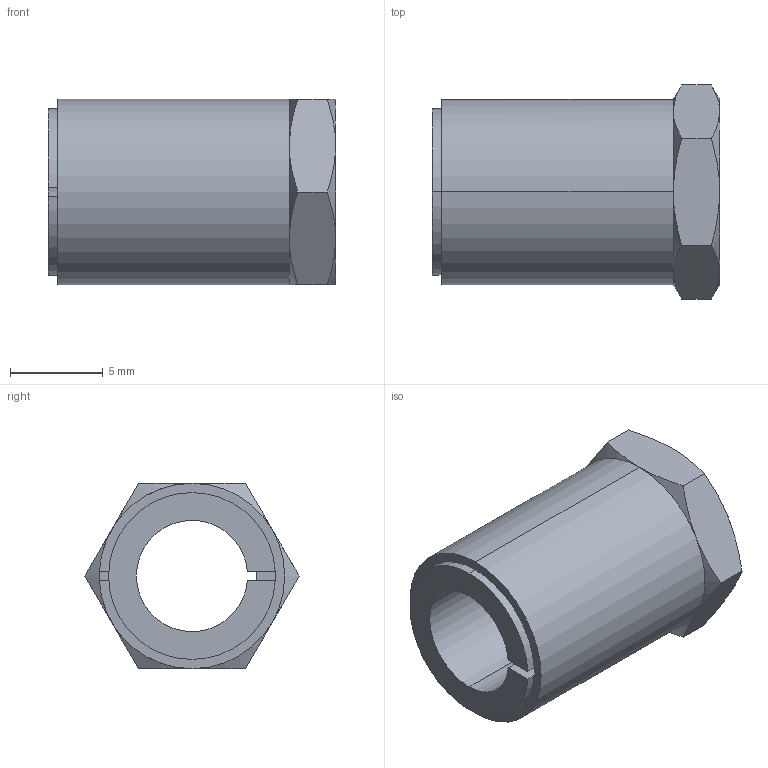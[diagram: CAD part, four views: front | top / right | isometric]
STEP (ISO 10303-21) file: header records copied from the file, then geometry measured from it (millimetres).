
FILE_DESCRIPTION (( 'STEP AP203' ), '1' );
FILE_NAME ('KBS 57 - 6 x 10.STEP', '2015-07-05T18:29:59', ( '' ), ( '' ), 'SwSTEP 2.0', 'SolidWorks 2010', '' );
FILE_SCHEMA (( 'CONFIG_CONTROL_DESIGN' ));
Length unit declared in the file: millimetre
Products named in the file (1): KBS 57 - 6 x 10
Bounding box: 15.5 x 11.55 x 10 mm (x, y, z)
Volume: 770 mm3; surface area: 952.9 mm2
Topology: 1 solids, 1 shells, 41 faces, 99 edges, 60 vertices
Faces by surface type: plane 16, cone 15, cylinder 10
Entity records: 1349 total; most frequent: CARTESIAN_POINT 333, ORIENTED_EDGE 198, DIRECTION 196, EDGE_CURVE 99, AXIS2_PLACEMENT_3D 81, VERTEX_POINT 60, EDGE_LOOP 43, ADVANCED_FACE 41
